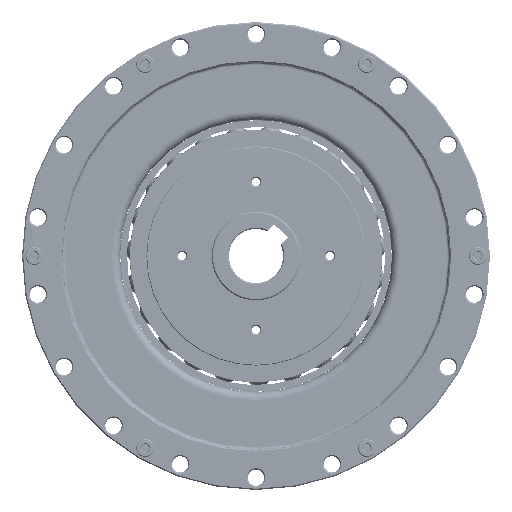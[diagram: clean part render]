
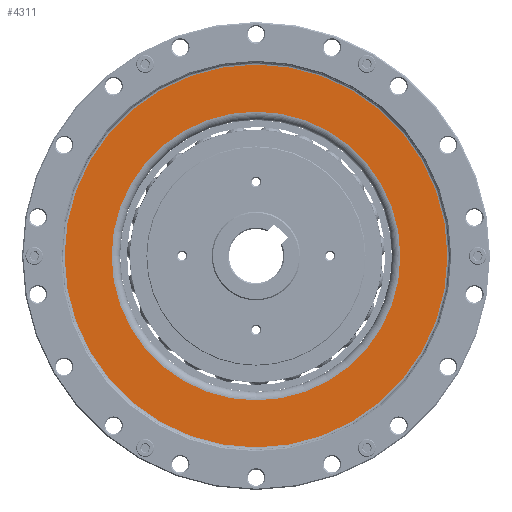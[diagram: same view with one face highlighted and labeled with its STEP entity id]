
A CAD part, left-side view. The second image highlights one B-rep face of the part: STEP entity #4311.
In plain terms, the highlighted planar face has unit normal (-1, 0, 0) as drawn and (0, -1, 0) by its records, which use the part's own axes.
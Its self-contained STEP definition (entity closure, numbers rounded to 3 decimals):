
#4311=ADVANCED_FACE('',(#5354,#5355),#4720,.T.);
#4720=PLANE('',#14211);
#5354=FACE_BOUND('',#6458,.T.);
#5355=FACE_BOUND('',#6459,.T.);
#6458=EDGE_LOOP('',(#8897));
#6459=EDGE_LOOP('',(#8898));
#8897=ORIENTED_EDGE('',*,*,#12232,.T.);
#8898=ORIENTED_EDGE('',*,*,#12231,.F.);
#10800=VERTEX_POINT('',#115968);
#10801=VERTEX_POINT('',#115971);
#12231=EDGE_CURVE('',#10800,#10800,#13129,.T.);
#12232=EDGE_CURVE('',#10801,#10801,#13130,.T.);
#13129=CIRCLE('',#14208,58.617);
#13130=CIRCLE('',#14210,77.726);
#14208=AXIS2_PLACEMENT_3D('',#115967,#16507,#16508);
#14210=AXIS2_PLACEMENT_3D('',#115970,#16511,#16512);
#14211=AXIS2_PLACEMENT_3D('',#115972,#16513,#16514);
#16507=DIRECTION('',(0.,-1.,0.));
#16508=DIRECTION('',(0.,0.,-1.));
#16511=DIRECTION('',(0.,-1.,0.));
#16512=DIRECTION('',(0.,0.,-1.));
#16513=DIRECTION('',(0.,-1.,0.));
#16514=DIRECTION('',(0.,0.,-1.));
#115967=CARTESIAN_POINT('',(0.,-52.4,0.));
#115968=CARTESIAN_POINT('',(0.,-52.4,-58.617));
#115970=CARTESIAN_POINT('',(0.,-52.4,0.));
#115971=CARTESIAN_POINT('',(0.,-52.4,-77.726));
#115972=CARTESIAN_POINT('',(58.617,-52.4,0.));
